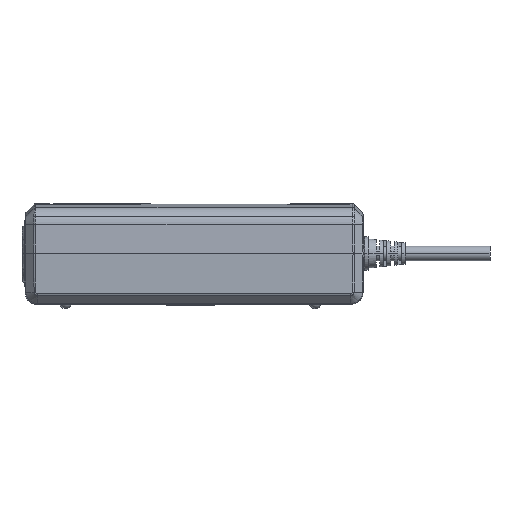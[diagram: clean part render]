
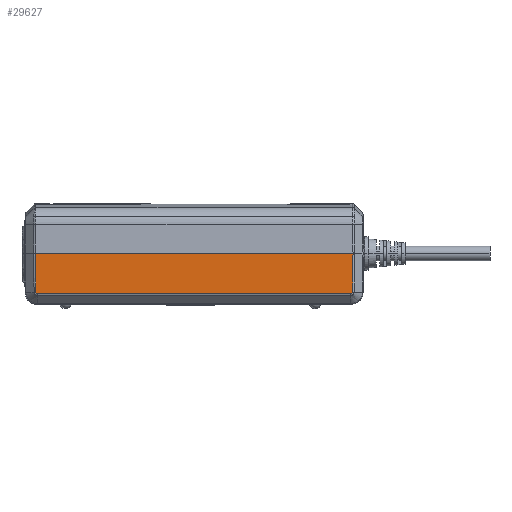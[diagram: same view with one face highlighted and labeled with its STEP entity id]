
A CAD part, top view. The second image highlights one B-rep face of the part: STEP entity #29627.
In plain terms, the highlighted planar face has unit normal (0, -0.018, 1).
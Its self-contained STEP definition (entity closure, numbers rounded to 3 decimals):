
#54 = DIRECTION ( 'NONE',  ( 0.017, -1., -0.017 ) ) ;
#70 = VERTEX_POINT ( 'NONE', #46591 ) ;
#835 = VECTOR ( 'NONE', #47846, 1000. ) ;
#3102 = EDGE_CURVE ( 'NONE', #70, #3987, #30619, .T. ) ;
#3987 = VERTEX_POINT ( 'NONE', #36359 ) ;
#4776 = VERTEX_POINT ( 'NONE', #63347 ) ;
#5238 = CARTESIAN_POINT ( 'NONE',  ( -69.595, -9.144, 43.717 ) ) ;
#7241 = CARTESIAN_POINT ( 'NONE',  ( 60.705, -9.497, 43.711 ) ) ;
#9303 = CARTESIAN_POINT ( 'NONE',  ( -74.308, -9.572, 43.709 ) ) ;
#10762 = CARTESIAN_POINT ( 'NONE',  ( -69.493, -9.348, 43.713 ) ) ;
#10815 = AXIS2_PLACEMENT_3D ( 'NONE', #42561, #64647, #31675 ) ;
#12186 = EDGE_CURVE ( 'NONE', #4776, #14629, #43063, .T. ) ;
#12523 = CARTESIAN_POINT ( 'NONE',  ( 60.491, -9.572, 43.709 ) ) ;
#12766 = CARTESIAN_POINT ( 'NONE',  ( 60.93, -9.295, 43.714 ) ) ;
#14629 = VERTEX_POINT ( 'NONE', #23471 ) ;
#16284 = CARTESIAN_POINT ( 'NONE',  ( -69.184, -9.572, 43.709 ) ) ;
#17702 = VECTOR ( 'NONE', #54, 1000. ) ;
#18290 = CARTESIAN_POINT ( 'NONE',  ( 60.995, -8.993, 43.719 ) ) ;
#20314 = EDGE_CURVE ( 'NONE', #3987, #4776, #42027, .T. ) ;
#21011 = LINE ( 'NONE', #31376, #32208 ) ;
#23471 = CARTESIAN_POINT ( 'NONE',  ( 60.415, -9.572, 43.709 ) ) ;
#23549 = EDGE_LOOP ( 'NONE', ( #68259, #70479, #38418, #37289, #36673, #65923 ) ) ;
#24354 = VECTOR ( 'NONE', #51703, 1000. ) ;
#26133 = PLANE ( 'NONE',  #10815 ) ;
#26868 = VERTEX_POINT ( 'NONE', #58592 ) ;
#29627 = ADVANCED_FACE ( 'NONE', ( #35148 ), #26133, .T. ) ;
#30619 = LINE ( 'NONE', #60426, #17702 ) ;
#31376 = CARTESIAN_POINT ( 'NONE',  ( 61.235, 4.722, 43.959 ) ) ;
#31675 = DIRECTION ( 'NONE',  ( 0., -1., -0.017 ) ) ;
#32208 = VECTOR ( 'NONE', #69892, 1000. ) ;
#32661 = CARTESIAN_POINT ( 'NONE',  ( -69.612, -8.993, 43.719 ) ) ;
#34638 = VERTEX_POINT ( 'NONE', #36405 ) ;
#35148 = FACE_OUTER_BOUND ( 'NONE', #23549, .T. ) ;
#36359 = CARTESIAN_POINT ( 'NONE',  ( -69.612, -8.993, 43.719 ) ) ;
#36405 = CARTESIAN_POINT ( 'NONE',  ( 60.995, -8.993, 43.719 ) ) ;
#36673 = ORIENTED_EDGE ( 'NONE', *, *, #3102, .T. ) ;
#37289 = ORIENTED_EDGE ( 'NONE', *, *, #47285, .F. ) ;
#37915 = B_SPLINE_CURVE_WITH_KNOTS ( 'NONE', 3,
 ( #61852, #12523, #40249, #7241, #45760, #12766, #51300, #18290 ),
 .UNSPECIFIED., .F., .F.,
 ( 4, 2, 2, 4 ),
 ( 0., 0., 0., 0.001 ),
 .UNSPECIFIED. ) ;
#38418 = ORIENTED_EDGE ( 'NONE', *, *, #55797, .T. ) ;
#40249 = CARTESIAN_POINT ( 'NONE',  ( 60.566, -9.555, 43.71 ) ) ;
#40784 = LINE ( 'NONE', #68016, #24354 ) ;
#42004 = EDGE_CURVE ( 'NONE', #14629, #34638, #37915, .T. ) ;
#42027 = B_SPLINE_CURVE_WITH_KNOTS ( 'NONE', 3,
 ( #32661, #65571, #5238, #43757, #10762, #49267, #16284, #54827 ),
 .UNSPECIFIED., .F., .F.,
 ( 4, 2, 2, 4 ),
 ( 0., 0., 0., 0.001 ),
 .UNSPECIFIED. ) ;
#42561 = CARTESIAN_POINT ( 'NONE',  ( -74.308, 7.087, 44. ) ) ;
#43063 = LINE ( 'NONE', #9303, #835 ) ;
#43757 = CARTESIAN_POINT ( 'NONE',  ( -69.536, -9.284, 43.714 ) ) ;
#45760 = CARTESIAN_POINT ( 'NONE',  ( 60.77, -9.455, 43.711 ) ) ;
#46591 = CARTESIAN_POINT ( 'NONE',  ( -69.892, 7.087, 44. ) ) ;
#47285 = EDGE_CURVE ( 'NONE', #70, #26868, #40784, .T. ) ;
#47846 = DIRECTION ( 'NONE',  ( 1., 0., 0. ) ) ;
#49267 = CARTESIAN_POINT ( 'NONE',  ( -69.333, -9.508, 43.71 ) ) ;
#51300 = CARTESIAN_POINT ( 'NONE',  ( 60.994, -9.146, 43.717 ) ) ;
#51703 = DIRECTION ( 'NONE',  ( 1., 0., 0. ) ) ;
#54827 = CARTESIAN_POINT ( 'NONE',  ( -69.031, -9.572, 43.709 ) ) ;
#55797 = EDGE_CURVE ( 'NONE', #34638, #26868, #21011, .T. ) ;
#58592 = CARTESIAN_POINT ( 'NONE',  ( 61.276, 7.087, 44. ) ) ;
#60426 = CARTESIAN_POINT ( 'NONE',  ( -69.894, 7.164, 44.001 ) ) ;
#61852 = CARTESIAN_POINT ( 'NONE',  ( 60.415, -9.572, 43.709 ) ) ;
#63347 = CARTESIAN_POINT ( 'NONE',  ( -69.031, -9.572, 43.709 ) ) ;
#64647 = DIRECTION ( 'NONE',  ( 0., -0.017, 1. ) ) ;
#65571 = CARTESIAN_POINT ( 'NONE',  ( -69.611, -9.069, 43.718 ) ) ;
#65923 = ORIENTED_EDGE ( 'NONE', *, *, #20314, .T. ) ;
#68016 = CARTESIAN_POINT ( 'NONE',  ( -74.308, 7.087, 44. ) ) ;
#68259 = ORIENTED_EDGE ( 'NONE', *, *, #12186, .T. ) ;
#69892 = DIRECTION ( 'NONE',  ( 0.017, 1., 0.017 ) ) ;
#70479 = ORIENTED_EDGE ( 'NONE', *, *, #42004, .T. ) ;
